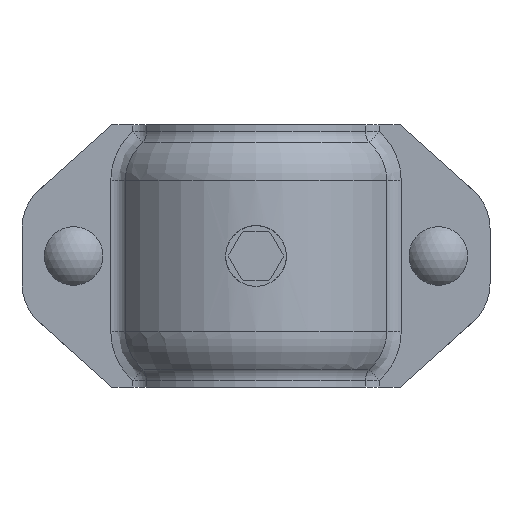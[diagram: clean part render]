
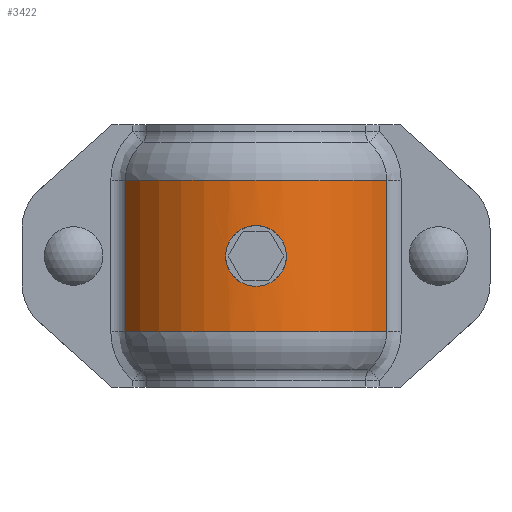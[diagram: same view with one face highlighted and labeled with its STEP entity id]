
A CAD part, front view. The second image highlights one B-rep face of the part: STEP entity #3422.
In plain terms, the highlighted cylindrical face has radius 57.15 mm (diameter 114.3 mm), a partial arc.
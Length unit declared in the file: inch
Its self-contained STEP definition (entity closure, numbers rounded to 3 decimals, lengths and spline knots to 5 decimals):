
#95=B_SPLINE_CURVE_WITH_KNOTS('',3,(#5546,#5547,#5548,#5549,#5550,#5551,
#5552,#5553,#5554,#5555,#5556,#5557,#5558,#5559,#5560,#5561,#5562,#5563,
#5564,#5565,#5566,#5567,#5568,#5569,#5570,#5571,#5572,#5573,#5574,#5575,
#5576,#5577,#5578,#5579),.UNSPECIFIED.,.T.,.F.,(4,2,2,2,2,2,2,2,2,2,2,2,
2,2,2,2,4),(0.,0.43423,0.86847,1.30268,1.73688,
2.17109,2.6053,3.03954,3.47377,3.908,
4.34224,4.77645,5.21065,5.64486,6.07907,
6.5133,6.94754),.UNSPECIFIED.);
#134=FACE_BOUND('',#459,.T.);
#270=FACE_OUTER_BOUND('',#458,.T.);
#458=EDGE_LOOP('',(#2264,#2265,#2266,#2267));
#459=EDGE_LOOP('',(#2268));
#675=LINE('',#5583,#951);
#676=LINE('',#5587,#952);
#951=VECTOR('',#4073,0.3937);
#952=VECTOR('',#4076,0.3937);
#1222=CIRCLE('',#3646,2.25);
#1223=CIRCLE('',#3647,2.25);
#1405=VERTEX_POINT('',#5544);
#1406=VERTEX_POINT('',#5581);
#1407=VERTEX_POINT('',#5582);
#1408=VERTEX_POINT('',#5584);
#1409=VERTEX_POINT('',#5586);
#1742=EDGE_CURVE('',#1405,#1405,#95,.T.);
#1743=EDGE_CURVE('',#1406,#1407,#675,.T.);
#1744=EDGE_CURVE('',#1406,#1408,#1222,.T.);
#1745=EDGE_CURVE('',#1409,#1408,#676,.T.);
#1746=EDGE_CURVE('',#1407,#1409,#1223,.T.);
#2264=ORIENTED_EDGE('',*,*,#1743,.F.);
#2265=ORIENTED_EDGE('',*,*,#1744,.T.);
#2266=ORIENTED_EDGE('',*,*,#1745,.F.);
#2267=ORIENTED_EDGE('',*,*,#1746,.F.);
#2268=ORIENTED_EDGE('',*,*,#1742,.T.);
#3160=CYLINDRICAL_SURFACE('',#3645,2.25);
#3422=ADVANCED_FACE('',(#270,#134),#3160,.T.);
#3645=AXIS2_PLACEMENT_3D('',#5580,#4071,#4072);
#3646=AXIS2_PLACEMENT_3D('',#5585,#4074,#4075);
#3647=AXIS2_PLACEMENT_3D('',#5588,#4077,#4078);
#4071=DIRECTION('center_axis',(0.,0.,-1.));
#4072=DIRECTION('ref_axis',(0.,-1.,0.));
#4073=DIRECTION('',(0.,0.,-1.));
#4074=DIRECTION('center_axis',(0.,0.,-1.));
#4075=DIRECTION('ref_axis',(1.,0.,0.));
#4076=DIRECTION('',(0.,0.,1.));
#4077=DIRECTION('center_axis',(0.,0.,-1.));
#4078=DIRECTION('ref_axis',(1.,0.,0.));
#5544=CARTESIAN_POINT('',(-0.4525,-2.20403,0.));
#5546=CARTESIAN_POINT('Ctrl Pts',(-0.4525,-2.20403,0.));
#5547=CARTESIAN_POINT('Ctrl Pts',(-0.4525,-2.20403,0.05699));
#5548=CARTESIAN_POINT('Ctrl Pts',(-0.44108,-2.20647,0.11766));
#5549=CARTESIAN_POINT('Ctrl Pts',(-0.39485,-2.21521,
0.2291));
#5550=CARTESIAN_POINT('Ctrl Pts',(-0.36005,-2.22137,
0.27988));
#5551=CARTESIAN_POINT('Ctrl Pts',(-0.27988,-2.23289,
0.36005));
#5552=CARTESIAN_POINT('Ctrl Pts',(-0.2291,-2.239,
0.39485));
#5553=CARTESIAN_POINT('Ctrl Pts',(-0.11766,-2.24762,
0.44108));
#5554=CARTESIAN_POINT('Ctrl Pts',(-0.05698,-2.25,0.4525));
#5555=CARTESIAN_POINT('Ctrl Pts',(0.05698,-2.25,0.4525));
#5556=CARTESIAN_POINT('Ctrl Pts',(0.11766,-2.24762,0.44108));
#5557=CARTESIAN_POINT('Ctrl Pts',(0.2291,-2.239,0.39485));
#5558=CARTESIAN_POINT('Ctrl Pts',(0.27988,-2.23289,0.36005));
#5559=CARTESIAN_POINT('Ctrl Pts',(0.36005,-2.22137,0.27988));
#5560=CARTESIAN_POINT('Ctrl Pts',(0.39485,-2.21521,0.2291));
#5561=CARTESIAN_POINT('Ctrl Pts',(0.44108,-2.20647,0.11766));
#5562=CARTESIAN_POINT('Ctrl Pts',(0.4525,-2.20403,0.05699));
#5563=CARTESIAN_POINT('Ctrl Pts',(0.4525,-2.20403,-0.05699));
#5564=CARTESIAN_POINT('Ctrl Pts',(0.44108,-2.20647,-0.11766));
#5565=CARTESIAN_POINT('Ctrl Pts',(0.39485,-2.21521,-0.2291));
#5566=CARTESIAN_POINT('Ctrl Pts',(0.36005,-2.22137,-0.27988));
#5567=CARTESIAN_POINT('Ctrl Pts',(0.27988,-2.23289,-0.36005));
#5568=CARTESIAN_POINT('Ctrl Pts',(0.2291,-2.239,-0.39485));
#5569=CARTESIAN_POINT('Ctrl Pts',(0.11766,-2.24762,-0.44108));
#5570=CARTESIAN_POINT('Ctrl Pts',(0.05698,-2.25,-0.4525));
#5571=CARTESIAN_POINT('Ctrl Pts',(-0.05698,-2.25,-0.4525));
#5572=CARTESIAN_POINT('Ctrl Pts',(-0.11766,-2.24762,
-0.44108));
#5573=CARTESIAN_POINT('Ctrl Pts',(-0.2291,-2.239,
-0.39485));
#5574=CARTESIAN_POINT('Ctrl Pts',(-0.27988,-2.23289,
-0.36005));
#5575=CARTESIAN_POINT('Ctrl Pts',(-0.36005,-2.22137,
-0.27988));
#5576=CARTESIAN_POINT('Ctrl Pts',(-0.39485,-2.21521,
-0.2291));
#5577=CARTESIAN_POINT('Ctrl Pts',(-0.44108,-2.20647,-0.11766));
#5578=CARTESIAN_POINT('Ctrl Pts',(-0.4525,-2.20403,-0.05699));
#5579=CARTESIAN_POINT('Ctrl Pts',(-0.4525,-2.20403,0.));
#5580=CARTESIAN_POINT('Origin',(0.,0.,-0.5645));
#5581=CARTESIAN_POINT('',(1.94856,-1.125,1.129));
#5582=CARTESIAN_POINT('',(1.94856,-1.125,-1.129));
#5583=CARTESIAN_POINT('',(1.94856,-1.125,-0.5645));
#5584=CARTESIAN_POINT('',(-1.94856,-1.125,1.129));
#5585=CARTESIAN_POINT('Origin',(0.,0.,1.129));
#5586=CARTESIAN_POINT('',(-1.94856,-1.125,-1.129));
#5587=CARTESIAN_POINT('',(-1.94856,-1.125,-0.5645));
#5588=CARTESIAN_POINT('Origin',(0.,0.,-1.129));
